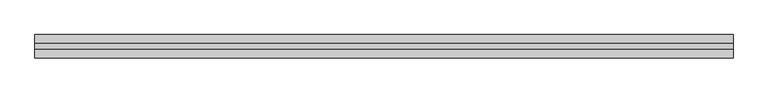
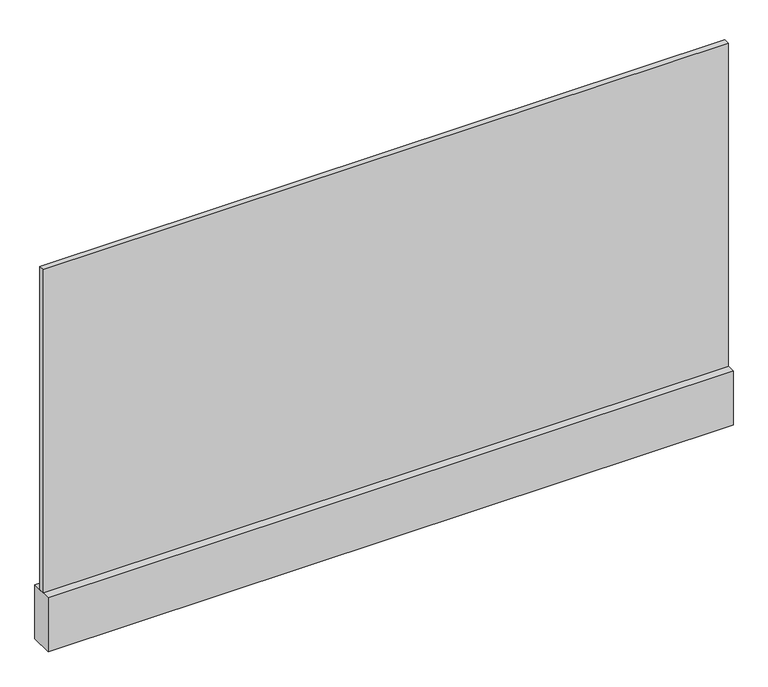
"""IFC4 building model written with IfcOpenShell, lengths in millimetres: plate geometry, r パネル FIX 下框付 : 框 H100."""

from ifc_helpers import new_model, si_unit, frame, origin, origin_with_axes, place, context, project, spatial, polyline, outline, extrude, source, transform, mapped, element, save


def plate_46ec0250(model_context):
    return source(origin(), model_context, "Body", "SweptSolid", [
        extrude(outline(polyline([(-600.9309555, -5.0), (-600.9309555, 5.0), (600.9309555, 5.0), (600.9309555, -5.0), (-600.9309555, -5.0)])), frame((0.0, 0.0, 100.0), z_axis=(0.0, 0.0, 1.0), x_axis=(1.0, 0.0, 0.0)), (0.0, 0.0, 1.0), 600.0),
        extrude(outline(polyline([(-600.9309555, -20.0), (-600.9309555, 20.0), (600.9309555, 20.0), (600.9309555, -20.0), (-600.9309555, -20.0)])), origin_with_axes(), (0.0, 0.0, 1.0), 100.0),
    ])


if __name__ == "__main__":
    model = new_model("IFC4")
    model_context = context("Model", 3, world=origin())
    ifc_project = project(units=[si_unit("LENGTHUNIT", "METRE", prefix="MILLI")], contexts=[model_context])
    site = spatial("IfcSite", under=ifc_project)
    building = spatial("IfcBuilding", under=site)
    placement = place(None, origin())
    plate_shape = plate_46ec0250(model_context)
    element("IfcPlate", 1, ObjectType="r パネル FIX 下框付 : 框 H100", at=placement, inside=building, context=model_context, shape_type="MappedRepresentation", body=[
        mapped(plate_shape, transform((0.0, 0.0, 0.0), x_axis=(1.0, 0.0, 0.0), y_axis=(0.0, 1.0, 0.0), z_axis=(0.0, 0.0, 1.0))),
    ])
    save(model, "model.ifc")
